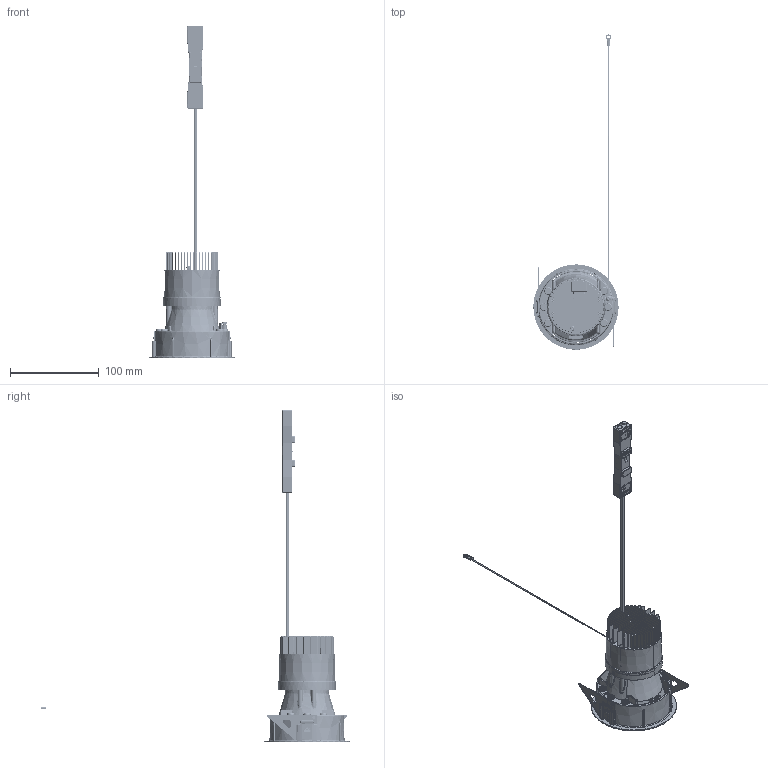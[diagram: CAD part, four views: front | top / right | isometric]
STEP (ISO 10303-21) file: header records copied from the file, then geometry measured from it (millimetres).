
FILE_DESCRIPTION(('CATIA V5 STEP Exchange'),'2;1');
FILE_NAME('C:\Users\stefano.giovinetto\Desktop\X.BP1C - M PRO Fix Round Trim.stp','2020-10-29T14:08:01+00:00',('none'),('none'),'CATIA Version 5 Release 20 SP 7 (IN-10)','CATIA V5 STEP AP203','none');
FILE_SCHEMA(('CONFIG_CONTROL_DESIGN'));
Products named in the file (1): X.BP1CK
Bounding box: 95.97 x 354.85 x 373.7 mm (x, y, z)
Volume: 113855.4 mm3; surface area: 168447.1 mm2
Topology: 51 solids, 111 shells, 10972 faces, 31083 edges, 19450 vertices
Faces by surface type: plane 6859, cylinder 1603, sphere 1054, bspline 629, torus 395, cone 374, extrusion 58
Entity records: 431560 total; most frequent: CARTESIAN_POINT 169244, ORIENTED_EDGE 59500, DIRECTION 44275, EDGE_CURVE 30038, VECTOR 19832, LINE 19774, VERTEX_POINT 19447, AXIS2_PLACEMENT_3D 14158
